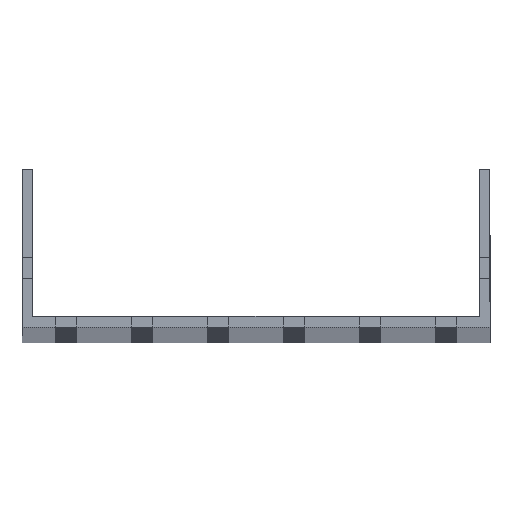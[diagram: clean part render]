
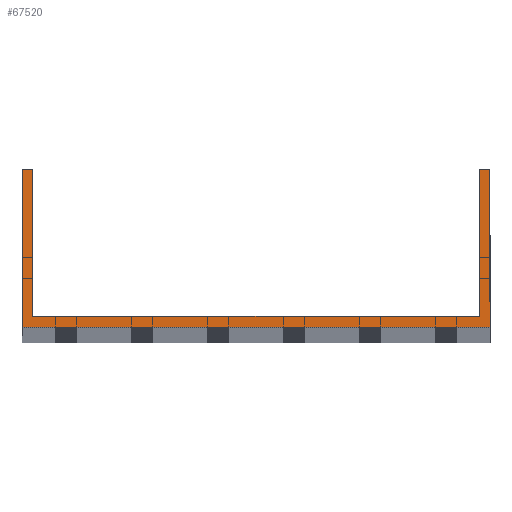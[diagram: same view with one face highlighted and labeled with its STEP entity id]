
A CAD part, top view. The second image highlights one B-rep face of the part: STEP entity #67520.
In plain terms, the highlighted planar face has unit normal (0, 0, 1).
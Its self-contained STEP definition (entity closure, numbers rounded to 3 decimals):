
#1291 = CARTESIAN_POINT ( 'NONE',  ( 77., 52., 1500. ) ) ;
#1654 = VECTOR ( 'NONE', #36275, 1000. ) ;
#1714 = AXIS2_PLACEMENT_3D ( 'NONE', #77375, #22952, #4675 ) ;
#4675 = DIRECTION ( 'NONE',  ( 1., 0., 0. ) ) ;
#4875 = CARTESIAN_POINT ( 'NONE',  ( -77., 3.5, 1500. ) ) ;
#6593 = CARTESIAN_POINT ( 'NONE',  ( 77., 52., 1500. ) ) ;
#9499 = CARTESIAN_POINT ( 'NONE',  ( -77., 52., 1500. ) ) ;
#9960 = VECTOR ( 'NONE', #66945, 1000. ) ;
#10775 = EDGE_CURVE ( 'NONE', #20259, #38918, #77180, .T. ) ;
#15039 = VERTEX_POINT ( 'NONE', #78045 ) ;
#17292 = LINE ( 'NONE', #64975, #35763 ) ;
#18526 = ORIENTED_EDGE ( 'NONE', *, *, #51628, .T. ) ;
#20259 = VERTEX_POINT ( 'NONE', #45261 ) ;
#22952 = DIRECTION ( 'NONE',  ( 0., 0., 1. ) ) ;
#23466 = VECTOR ( 'NONE', #56499, 1000. ) ;
#24239 = CARTESIAN_POINT ( 'NONE',  ( -77., 0., 1500. ) ) ;
#27104 = CARTESIAN_POINT ( 'NONE',  ( 73.5, 52., 1500. ) ) ;
#27492 = EDGE_CURVE ( 'NONE', #32410, #15039, #35404, .T. ) ;
#28318 = CARTESIAN_POINT ( 'NONE',  ( -77., 52., 1500. ) ) ;
#29113 = VECTOR ( 'NONE', #30812, 1000. ) ;
#29463 = CARTESIAN_POINT ( 'NONE',  ( 73.5, 52., 1500. ) ) ;
#30812 = DIRECTION ( 'NONE',  ( 0., 1., 0. ) ) ;
#31537 = ORIENTED_EDGE ( 'NONE', *, *, #73798, .T. ) ;
#31765 = DIRECTION ( 'NONE',  ( 1., 0., 0. ) ) ;
#32410 = VERTEX_POINT ( 'NONE', #24239 ) ;
#35049 = VERTEX_POINT ( 'NONE', #29463 ) ;
#35110 = LINE ( 'NONE', #66075, #1654 ) ;
#35404 = LINE ( 'NONE', #49645, #77108 ) ;
#35763 = VECTOR ( 'NONE', #72479, 1000. ) ;
#36237 = ORIENTED_EDGE ( 'NONE', *, *, #44813, .T. ) ;
#36275 = DIRECTION ( 'NONE',  ( -1., 0., 0. ) ) ;
#38918 = VERTEX_POINT ( 'NONE', #72903 ) ;
#39415 = LINE ( 'NONE', #27104, #23466 ) ;
#40837 = EDGE_CURVE ( 'NONE', #38918, #35049, #39415, .T. ) ;
#40947 = VECTOR ( 'NONE', #41395, 1000. ) ;
#41395 = DIRECTION ( 'NONE',  ( 1., 0., 0. ) ) ;
#42710 = LINE ( 'NONE', #55028, #9960 ) ;
#43168 = ORIENTED_EDGE ( 'NONE', *, *, #63643, .F. ) ;
#44813 = EDGE_CURVE ( 'NONE', #71610, #32410, #42710, .T. ) ;
#45261 = CARTESIAN_POINT ( 'NONE',  ( -73.5, 3.5, 1500. ) ) ;
#47946 = FACE_OUTER_BOUND ( 'NONE', #50432, .T. ) ;
#48228 = VERTEX_POINT ( 'NONE', #76726 ) ;
#49645 = CARTESIAN_POINT ( 'NONE',  ( -77., 0., 1500. ) ) ;
#50432 = EDGE_LOOP ( 'NONE', ( #43168, #54210, #36237, #52512, #18526, #31537, #71268, #63409 ) ) ;
#51628 = EDGE_CURVE ( 'NONE', #15039, #73976, #61010, .T. ) ;
#52512 = ORIENTED_EDGE ( 'NONE', *, *, #27492, .T. ) ;
#53937 = VECTOR ( 'NONE', #57942, 1000. ) ;
#54210 = ORIENTED_EDGE ( 'NONE', *, *, #76124, .T. ) ;
#55028 = CARTESIAN_POINT ( 'NONE',  ( -77., 52., 1500. ) ) ;
#56499 = DIRECTION ( 'NONE',  ( 0., 1., 0. ) ) ;
#57162 = LINE ( 'NONE', #9499, #53937 ) ;
#57942 = DIRECTION ( 'NONE',  ( -1., 0., 0. ) ) ;
#61010 = LINE ( 'NONE', #6593, #29113 ) ;
#63409 = ORIENTED_EDGE ( 'NONE', *, *, #10775, .F. ) ;
#63643 = EDGE_CURVE ( 'NONE', #48228, #20259, #17292, .T. ) ;
#64975 = CARTESIAN_POINT ( 'NONE',  ( -73.5, 52., 1500. ) ) ;
#66075 = CARTESIAN_POINT ( 'NONE',  ( -77., 52., 1500. ) ) ;
#66945 = DIRECTION ( 'NONE',  ( 0., -1., 0. ) ) ;
#67520 = ADVANCED_FACE ( 'NONE', ( #47946 ), #71008, .T. ) ;
#71008 = PLANE ( 'NONE',  #1714 ) ;
#71268 = ORIENTED_EDGE ( 'NONE', *, *, #40837, .F. ) ;
#71610 = VERTEX_POINT ( 'NONE', #28318 ) ;
#72479 = DIRECTION ( 'NONE',  ( 0., -1., 0. ) ) ;
#72903 = CARTESIAN_POINT ( 'NONE',  ( 73.5, 3.5, 1500. ) ) ;
#73798 = EDGE_CURVE ( 'NONE', #73976, #35049, #35110, .T. ) ;
#73976 = VERTEX_POINT ( 'NONE', #1291 ) ;
#76124 = EDGE_CURVE ( 'NONE', #48228, #71610, #57162, .T. ) ;
#76726 = CARTESIAN_POINT ( 'NONE',  ( -73.5, 52., 1500. ) ) ;
#77108 = VECTOR ( 'NONE', #31765, 1000. ) ;
#77180 = LINE ( 'NONE', #4875, #40947 ) ;
#77375 = CARTESIAN_POINT ( 'NONE',  ( 0., 0., 1500. ) ) ;
#78045 = CARTESIAN_POINT ( 'NONE',  ( 77., 0., 1500. ) ) ;
